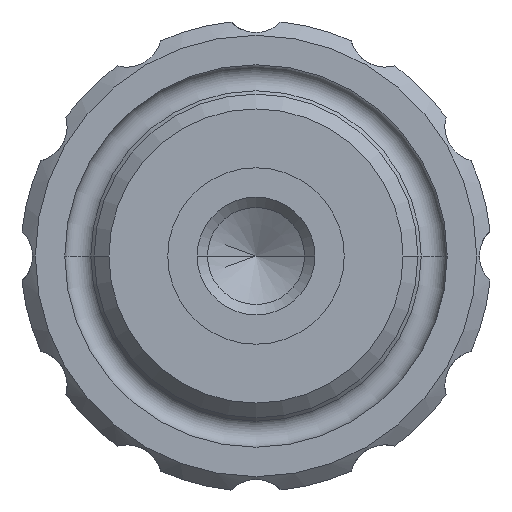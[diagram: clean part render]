
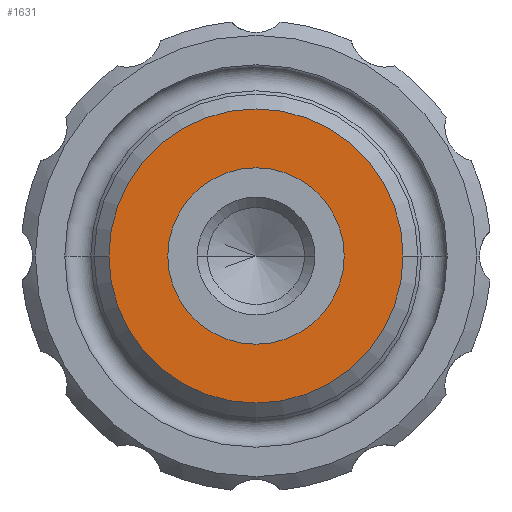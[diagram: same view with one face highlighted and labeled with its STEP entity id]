
A CAD part, left-side view. The second image highlights one B-rep face of the part: STEP entity #1631.
In plain terms, the highlighted planar face has unit normal (-1, 0, 0).
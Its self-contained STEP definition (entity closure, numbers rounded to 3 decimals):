
#37 = DIRECTION ( 'NONE',  ( 0., -1., 0. ) ) ;
#58 = EDGE_CURVE ( 'NONE', #1546, #1840, #1874, .T. ) ;
#88 = VERTEX_POINT ( 'NONE', #1483 ) ;
#103 = FACE_OUTER_BOUND ( 'NONE', #1659, .T. ) ;
#220 = CARTESIAN_POINT ( 'NONE',  ( 0.3, 0., 0. ) ) ;
#277 = EDGE_CURVE ( 'NONE', #311, #88, #632, .T. ) ;
#278 = PLANE ( 'NONE',  #2139 ) ;
#311 = VERTEX_POINT ( 'NONE', #1135 ) ;
#331 = CARTESIAN_POINT ( 'NONE',  ( 0.3, 0., 0. ) ) ;
#398 = AXIS2_PLACEMENT_3D ( 'NONE', #1142, #660, #1167 ) ;
#434 = AXIS2_PLACEMENT_3D ( 'NONE', #220, #885, #1858 ) ;
#473 = FACE_BOUND ( 'NONE', #1510, .T. ) ;
#497 = ORIENTED_EDGE ( 'NONE', *, *, #58, .T. ) ;
#632 = CIRCLE ( 'NONE', #1012, 3. ) ;
#660 = DIRECTION ( 'NONE',  ( -1., 0., 0. ) ) ;
#828 = DIRECTION ( 'NONE',  ( -1., 0., 0. ) ) ;
#885 = DIRECTION ( 'NONE',  ( -1., 0., 0. ) ) ;
#972 = DIRECTION ( 'NONE',  ( -1., 0., 0. ) ) ;
#1012 = AXIS2_PLACEMENT_3D ( 'NONE', #1758, #972, #1100 ) ;
#1100 = DIRECTION ( 'NONE',  ( 0., -1., 0. ) ) ;
#1135 = CARTESIAN_POINT ( 'NONE',  ( 0.3, -3., 0. ) ) ;
#1142 = CARTESIAN_POINT ( 'NONE',  ( 0.3, 0., 0. ) ) ;
#1167 = DIRECTION ( 'NONE',  ( 0., -1., 0. ) ) ;
#1177 = CARTESIAN_POINT ( 'NONE',  ( 0.3, -5., 0. ) ) ;
#1278 = AXIS2_PLACEMENT_3D ( 'NONE', #331, #828, #37 ) ;
#1291 = ORIENTED_EDGE ( 'NONE', *, *, #277, .F. ) ;
#1416 = DIRECTION ( 'NONE',  ( 0., 1., 0. ) ) ;
#1483 = CARTESIAN_POINT ( 'NONE',  ( 0.3, 3., 0. ) ) ;
#1510 = EDGE_LOOP ( 'NONE', ( #1291, #2022 ) ) ;
#1546 = VERTEX_POINT ( 'NONE', #2024 ) ;
#1568 = ORIENTED_EDGE ( 'NONE', *, *, #1780, .T. ) ;
#1631 = ADVANCED_FACE ( 'PLANAR_1', ( #473, #103 ), #278, .F. ) ;
#1659 = EDGE_LOOP ( 'NONE', ( #497, #1568 ) ) ;
#1757 = DIRECTION ( 'NONE',  ( 1., 0., 0. ) ) ;
#1758 = CARTESIAN_POINT ( 'NONE',  ( 0.3, 0., 0. ) ) ;
#1780 = EDGE_CURVE ( 'NONE', #1840, #1546, #2100, .T. ) ;
#1840 = VERTEX_POINT ( 'NONE', #1177 ) ;
#1858 = DIRECTION ( 'NONE',  ( 0., -1., 0. ) ) ;
#1874 = CIRCLE ( 'NONE', #1278, 5. ) ;
#1945 = CARTESIAN_POINT ( 'NONE',  ( 0.3, 3., 0. ) ) ;
#2022 = ORIENTED_EDGE ( 'NONE', *, *, #2034, .F. ) ;
#2024 = CARTESIAN_POINT ( 'NONE',  ( 0.3, 5., 0. ) ) ;
#2034 = EDGE_CURVE ( 'NONE', #88, #311, #2140, .T. ) ;
#2100 = CIRCLE ( 'NONE', #398, 5. ) ;
#2139 = AXIS2_PLACEMENT_3D ( 'NONE', #1945, #1757, #1416 ) ;
#2140 = CIRCLE ( 'NONE', #434, 3. ) ;
